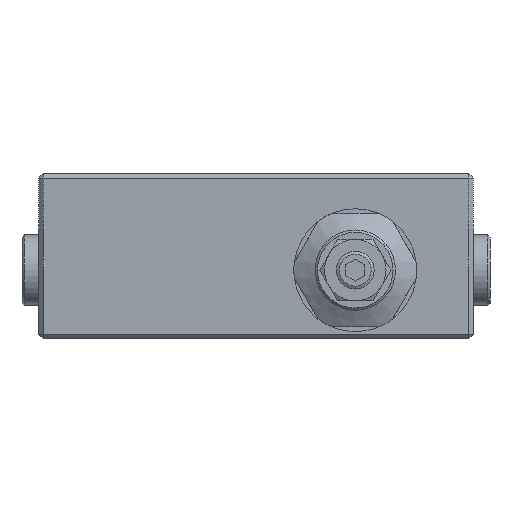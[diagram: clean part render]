
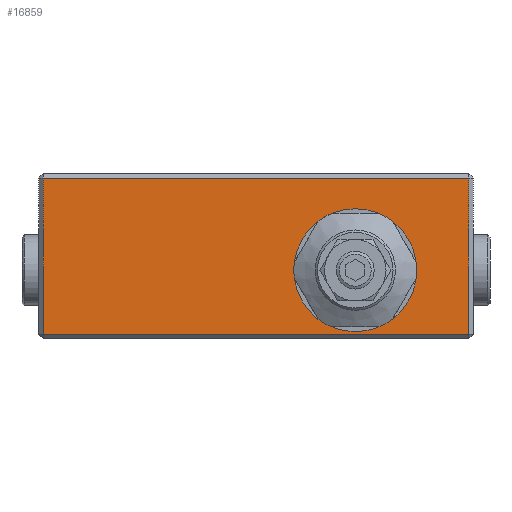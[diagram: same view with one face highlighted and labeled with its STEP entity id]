
A CAD part, front view. The second image highlights one B-rep face of the part: STEP entity #16859.
In plain terms, the highlighted planar face has unit normal (0, -1, 0).
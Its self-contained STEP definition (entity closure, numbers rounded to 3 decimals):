
#297 = VECTOR ( 'NONE', #6406, 1000. ) ;
#394 = EDGE_CURVE ( 'NONE', #3953, #3953, #6839, .T. ) ;
#606 = VERTEX_POINT ( 'NONE', #13036 ) ;
#1729 = DIRECTION ( 'NONE',  ( 0., 1., 0. ) ) ;
#1813 = CARTESIAN_POINT ( 'NONE',  ( -45., -35., -16.5 ) ) ;
#3165 = AXIS2_PLACEMENT_3D ( 'NONE', #14946, #1729, #27560 ) ;
#3500 = CARTESIAN_POINT ( 'NONE',  ( 34., -35., -3. ) ) ;
#3953 = VERTEX_POINT ( 'NONE', #3500 ) ;
#4143 = EDGE_CURVE ( 'NONE', #14997, #4442, #15095, .T. ) ;
#4311 = ORIENTED_EDGE ( 'NONE', *, *, #4143, .T. ) ;
#4369 = LINE ( 'NONE', #10101, #297 ) ;
#4442 = VERTEX_POINT ( 'NONE', #24178 ) ;
#6406 = DIRECTION ( 'NONE',  ( 0., 0., -1. ) ) ;
#6839 = CIRCLE ( 'NONE', #15944, 13. ) ;
#7381 = LINE ( 'NONE', #13829, #9407 ) ;
#9020 = VECTOR ( 'NONE', #24963, 1000. ) ;
#9407 = VECTOR ( 'NONE', #22465, 1000. ) ;
#9494 = CARTESIAN_POINT ( 'NONE',  ( -46., -35., 16.5 ) ) ;
#10101 = CARTESIAN_POINT ( 'NONE',  ( -45., -35., 17.5 ) ) ;
#11319 = EDGE_LOOP ( 'NONE', ( #15390, #4311, #15257, #13131 ) ) ;
#11736 = VECTOR ( 'NONE', #20303, 1000. ) ;
#12425 = LINE ( 'NONE', #9494, #11736 ) ;
#13036 = CARTESIAN_POINT ( 'NONE',  ( -45., -35., 16.5 ) ) ;
#13131 = ORIENTED_EDGE ( 'NONE', *, *, #27589, .T. ) ;
#13829 = CARTESIAN_POINT ( 'NONE',  ( 45., -35., 17.5 ) ) ;
#14489 = ORIENTED_EDGE ( 'NONE', *, *, #394, .F. ) ;
#14946 = CARTESIAN_POINT ( 'NONE',  ( -46., -35., 17.5 ) ) ;
#14997 = VERTEX_POINT ( 'NONE', #1813 ) ;
#15095 = LINE ( 'NONE', #22471, #9020 ) ;
#15257 = ORIENTED_EDGE ( 'NONE', *, *, #27666, .T. ) ;
#15390 = ORIENTED_EDGE ( 'NONE', *, *, #27119, .T. ) ;
#15944 = AXIS2_PLACEMENT_3D ( 'NONE', #27739, #23422, #21062 ) ;
#16147 = VERTEX_POINT ( 'NONE', #25372 ) ;
#16454 = FACE_BOUND ( 'NONE', #27288, .T. ) ;
#16859 = ADVANCED_FACE ( 'NONE', ( #21807, #16454 ), #23337, .F. ) ;
#20303 = DIRECTION ( 'NONE',  ( -1., 0., 0. ) ) ;
#21062 = DIRECTION ( 'NONE',  ( 1., 0., 0. ) ) ;
#21807 = FACE_OUTER_BOUND ( 'NONE', #11319, .T. ) ;
#22465 = DIRECTION ( 'NONE',  ( 0., 0., 1. ) ) ;
#22471 = CARTESIAN_POINT ( 'NONE',  ( -46., -35., -16.5 ) ) ;
#23337 = PLANE ( 'NONE',  #3165 ) ;
#23422 = DIRECTION ( 'NONE',  ( 0., -1., 0. ) ) ;
#24178 = CARTESIAN_POINT ( 'NONE',  ( 45., -35., -16.5 ) ) ;
#24963 = DIRECTION ( 'NONE',  ( 1., 0., 0. ) ) ;
#25372 = CARTESIAN_POINT ( 'NONE',  ( 45., -35., 16.5 ) ) ;
#27119 = EDGE_CURVE ( 'NONE', #606, #14997, #4369, .T. ) ;
#27288 = EDGE_LOOP ( 'NONE', ( #14489 ) ) ;
#27560 = DIRECTION ( 'NONE',  ( 0., 0., 1. ) ) ;
#27589 = EDGE_CURVE ( 'NONE', #16147, #606, #12425, .T. ) ;
#27666 = EDGE_CURVE ( 'NONE', #4442, #16147, #7381, .T. ) ;
#27739 = CARTESIAN_POINT ( 'NONE',  ( 21., -35., -3. ) ) ;
